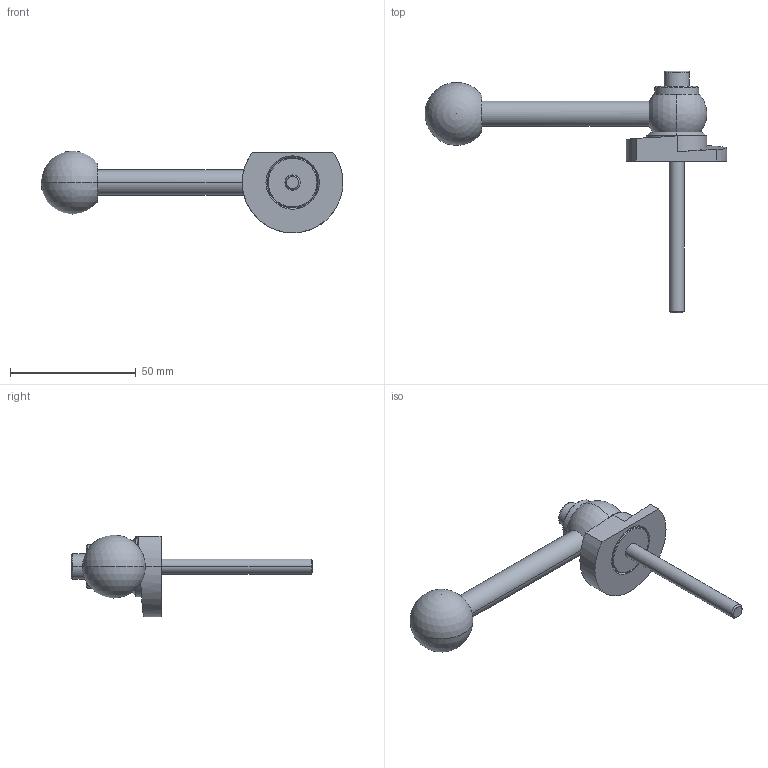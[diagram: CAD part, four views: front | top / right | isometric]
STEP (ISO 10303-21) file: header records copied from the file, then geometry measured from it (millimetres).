
FILE_DESCRIPTION (( 'STEP AP214' ), '1' );
FILE_NAME ('918.1-40-GVS-R-60.step', '2024-05-15T12:59:49', ( '' ), ( '' ), 'SwSTEP 2.0', 'SolidWorks 2022', '' );
FILE_SCHEMA (( 'AUTOMOTIVE_DESIGN' ));
Length unit declared in the file: millimetre
Products named in the file (1): 918.1-40-GVS-R-60
Bounding box: 120 x 96 x 32.5 mm (x, y, z)
Volume: 31204.2 mm3; surface area: 11870.1 mm2
Topology: 1 solids, 1 shells, 64 faces, 147 edges, 93 vertices
Faces by surface type: cylinder 22, plane 20, cone 14, sphere 4, torus 2, bspline 2
Entity records: 2045 total; most frequent: CARTESIAN_POINT 590, DIRECTION 321, ORIENTED_EDGE 274, EDGE_CURVE 137, AXIS2_PLACEMENT_3D 131, VERTEX_POINT 87, EDGE_LOOP 76, CIRCLE 68
